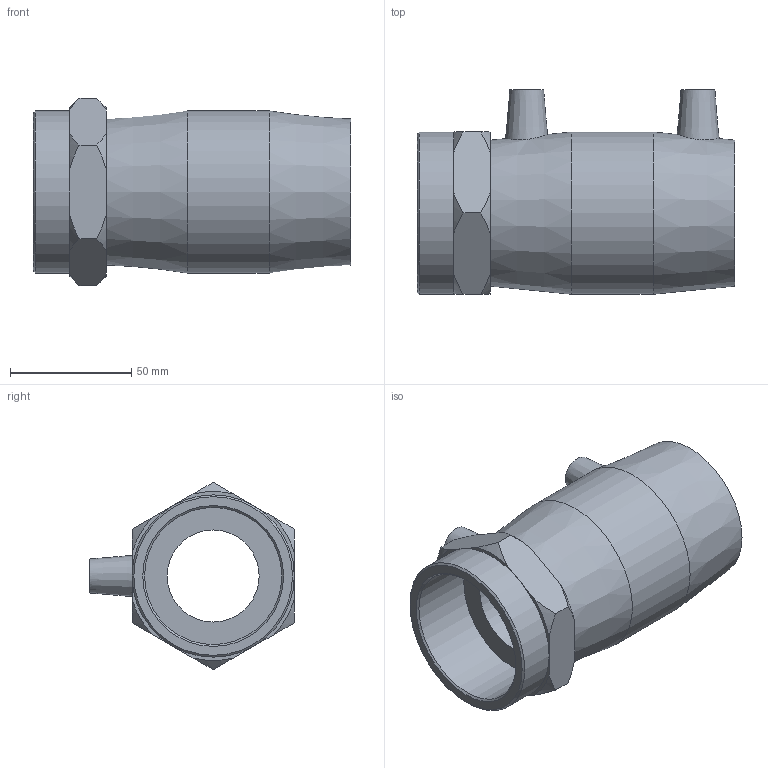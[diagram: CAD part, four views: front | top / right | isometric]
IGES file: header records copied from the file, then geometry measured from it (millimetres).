
Global section: file name: 493104050020.ipt; native system: Autodesk Inventor 2015; preprocessor: unknown; author: KIM; date: 20200202.122448; units: millimetre
Bounding box: 131 x 84.5 x 77.36 mm (x, y, z)
Volume: 222089.1 mm3; surface area: 54551.1 mm2
Topology: 1 solids, 1 shells, 54 faces, 130 edges, 86 vertices
Faces by surface type: plane 24, cone 17, revolution 9, cylinder 4
Full cylindrical faces by diameter (mm): 4 x2, 67 x2
